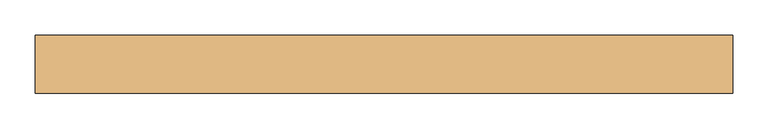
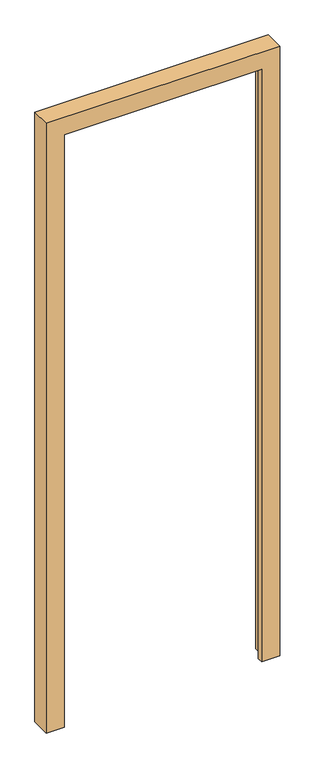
"""IFC4 building model written with IfcOpenShell, lengths in millimetres: door geometry, PNX_PORTE-N-PTH : 85-PTHC55."""

from ifc_helpers import new_model, si_unit, origin, place, context, project, spatial, faceted_brep, source, transform, mapped, element, save


def door_ac919ee7(model_context):
    return source(origin(), model_context, "Body", "Brep", [
        faceted_brep([(-497.0, 41.5, 0.0), (-442.0, 41.5, 0.0), (-442.0, -18.0, 0.0), (-419.5, -18.0, 0.0), (-419.5, -41.5, 0.0), (-497.0, -41.5, 0.0), (497.0, -41.5, 0.0), (419.5, -41.5, 0.0), (419.5, -18.0, 0.0), (442.0, -18.0, 0.0), (442.0, 41.5, 0.0), (497.0, 41.5, 0.0), (-497.0, 41.5, 2743.0), (-497.0, -41.5, 2743.0), (-419.5, -41.5, 2665.5), (419.5, -41.5, 2665.5), (497.0, -41.5, 2743.0), (-419.5, -18.0, 2665.5), (442.0, -18.0, 2688.0), (419.5, -18.0, 2665.5), (-442.0, -18.0, 2688.0), (-442.0, 41.5, 2688.0), (497.0, 41.5, 2743.0), (442.0, 41.5, 2688.0)], [[[0, 1, 2, 3, 4, 5]], [[6, 7, 8, 9, 10, 11]], [[12, 0, 5, 13]], [[13, 5, 4, 14, 15, 7, 6, 16]], [[14, 4, 3, 17]], [[18, 9, 8, 19, 17, 3, 2, 20]], [[20, 2, 1, 21]], [[22, 11, 10, 23, 21, 1, 0, 12]], [[16, 6, 11, 22]], [[23, 10, 9, 18]], [[19, 8, 7, 15]], [[22, 12, 13, 16]], [[15, 14, 17, 19]], [[21, 23, 18, 20]]]),
    ])


if __name__ == "__main__":
    model = new_model("IFC4")
    model_context = context("Model", 3, world=origin())
    ifc_project = project(units=[si_unit("LENGTHUNIT", "METRE", prefix="MILLI")], contexts=[model_context])
    site = spatial("IfcSite", under=ifc_project)
    building = spatial("IfcBuilding", under=site)
    placement = place(None, origin())
    door_shape = door_ac919ee7(model_context)
    element("IfcDoor", 1, ObjectType="PNX_PORTE-N-PTH : 85-PTHC55", at=placement, inside=building, context=model_context, shape_type="MappedRepresentation", body=[
        mapped(door_shape, transform((0.0, 0.0, 0.0), x_axis=(1.0, 0.0, 0.0), y_axis=(0.0, 1.0, 0.0), z_axis=(0.0, 0.0, 1.0))),
    ])
    save(model, "model.ifc")
